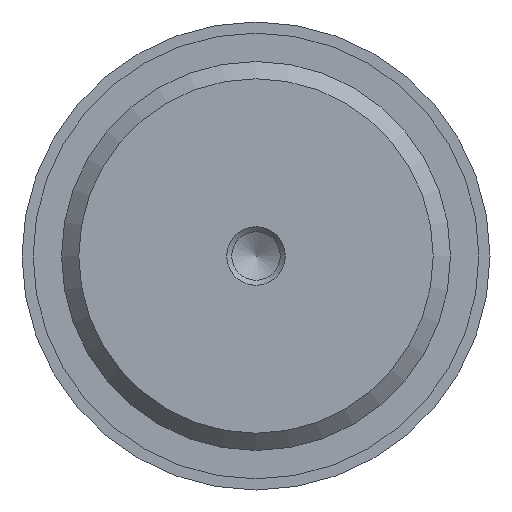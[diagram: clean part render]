
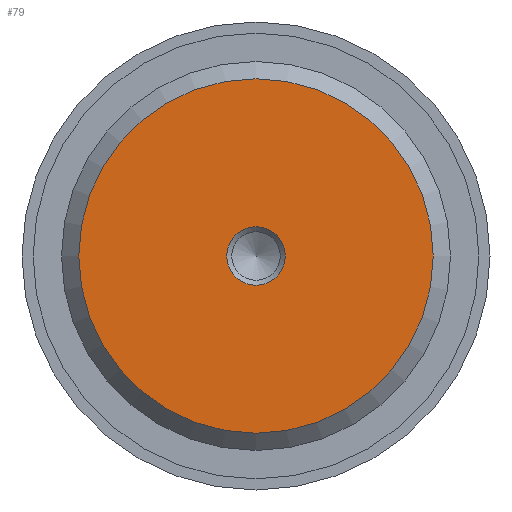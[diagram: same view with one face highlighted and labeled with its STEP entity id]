
A CAD part, front view. The second image highlights one B-rep face of the part: STEP entity #79.
In plain terms, the highlighted planar face has unit normal (0, -1, 0).
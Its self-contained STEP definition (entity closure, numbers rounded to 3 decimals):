
#79 = ADVANCED_FACE( '', ( #139, #140 ), #141, .F. );
#139 = FACE_BOUND( '', #257, .T. );
#140 = FACE_OUTER_BOUND( '', #258, .T. );
#141 = PLANE( '', #259 );
#257 = EDGE_LOOP( '', ( #387 ) );
#258 = EDGE_LOOP( '', ( #388 ) );
#259 = AXIS2_PLACEMENT_3D( '', #389, #390, #391 );
#387 = ORIENTED_EDGE( '', *, *, #758, .F. );
#388 = ORIENTED_EDGE( '', *, *, #762, .T. );
#389 = CARTESIAN_POINT( '', ( 15.146, 0., 0. ) );
#390 = DIRECTION( '', ( 0., 1., 0. ) );
#391 = DIRECTION( '', ( 0., 0., 1. ) );
#758 = EDGE_CURVE( '', #880, #880, #881, .T. );
#762 = EDGE_CURVE( '', #886, #886, #887, .T. );
#880 = VERTEX_POINT( '', #1090 );
#881 = CIRCLE( '', #1091, 2.5 );
#886 = VERTEX_POINT( '', #1096 );
#887 = CIRCLE( '', #1097, 15.146 );
#1090 = CARTESIAN_POINT( '', ( 2.5, 0., 0. ) );
#1091 = AXIS2_PLACEMENT_3D( '', #1434, #1435, #1436 );
#1096 = CARTESIAN_POINT( '', ( 0., 0., -15.146 ) );
#1097 = AXIS2_PLACEMENT_3D( '', #1443, #1444, #1445 );
#1434 = CARTESIAN_POINT( '', ( 0., 0., 0. ) );
#1435 = DIRECTION( '', ( 0., -1., 0. ) );
#1436 = DIRECTION( '', ( 1., 0., 0. ) );
#1443 = CARTESIAN_POINT( '', ( 0., 0., 0. ) );
#1444 = DIRECTION( '', ( 0., -1., 0. ) );
#1445 = DIRECTION( '', ( 0., 0., -1. ) );
